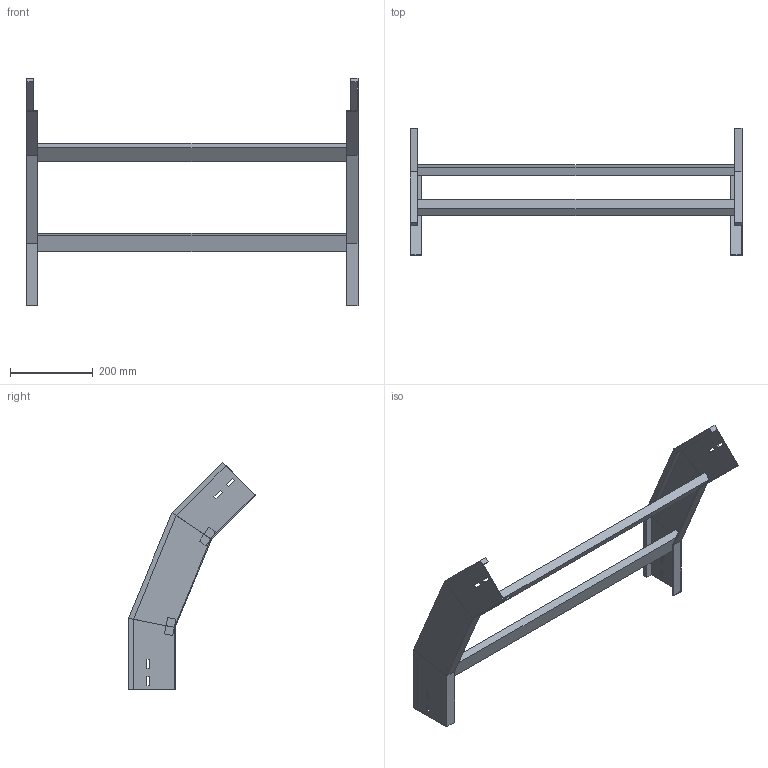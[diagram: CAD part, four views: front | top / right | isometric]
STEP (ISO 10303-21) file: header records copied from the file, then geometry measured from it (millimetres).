
FILE_DESCRIPTION (( 'STEP AP214' ), '1' );
FILE_NAME ('A2_34B3J800.step', '2025-02-21T14:53:31', ( '' ), ( '' ), 'SwSTEP 2.0', 'SolidWorks 2023', '' );
FILE_SCHEMA (( 'AUTOMOTIVE_DESIGN' ));
Length unit declared in the file: millimetre
Products named in the file (3): TRAVERSINO_800; A2_34B3J800; LONGH.DISCESA_45°_H112.5_R300
Assembly tree (5 placements, depth 2):
  A2_34B3J800
    LONGH.DISCESA_45°_H112.5_R300  x2
    TRAVERSINO_800  x3
Bounding box: 800 x 306.58 x 548.11 mm (x, y, z)
Volume: 2479594.3 mm3; surface area: 649800.6 mm2
Topology: 5 solids, 5 shells, 102 faces, 244 edges, 152 vertices
Faces by surface type: plane 102
Entity records: 1480 total; most frequent: CARTESIAN_POINT 244, ORIENTED_EDGE 232, DIRECTION 228, EDGE_CURVE 116, VECTOR 116, LINE 116, VERTEX_POINT 72, EDGE_LOOP 56
